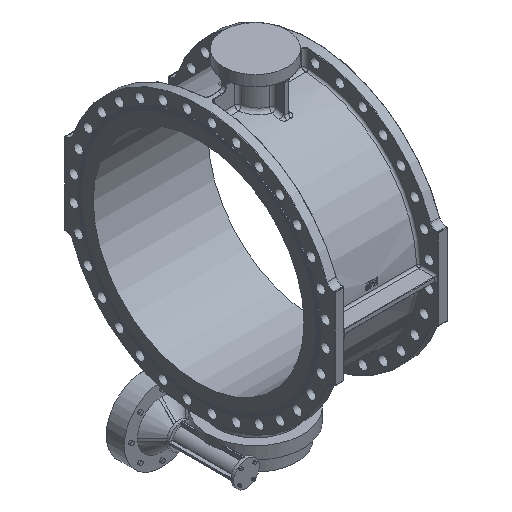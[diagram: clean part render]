
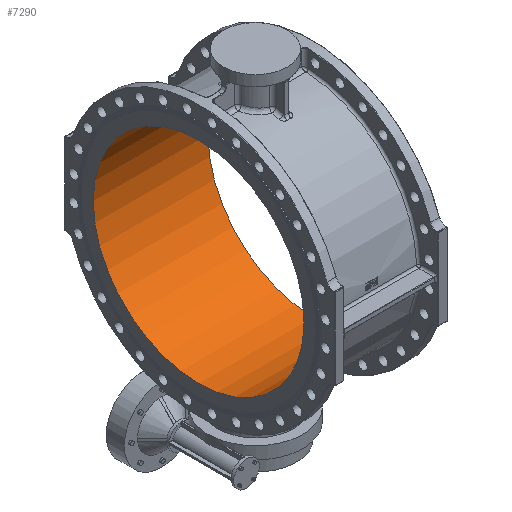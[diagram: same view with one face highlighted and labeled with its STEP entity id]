
A CAD part, isometric view. The second image highlights one B-rep face of the part: STEP entity #7290.
In plain terms, the highlighted cylindrical face has radius 579 mm (diameter 1158 mm), a full revolution.
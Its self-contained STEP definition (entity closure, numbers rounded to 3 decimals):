
#7290 = ADVANCED_FACE ( 'NONE', ( #30039, #30044 ), #30045, .F. ) ;
#8574 = ORIENTED_EDGE ( 'NONE', *, *, #9490, .T. ) ;
#8575 = ORIENTED_EDGE ( 'NONE', *, *, #9419, .T. ) ;
#9419 = EDGE_CURVE ( 'NONE', #14211, #14211, #25011, .T. ) ;
#9490 = EDGE_CURVE ( 'NONE', #14304, #14304, #42913, .T. ) ;
#13073 = EDGE_LOOP ( 'NONE', ( #8575 ) ) ;
#13076 = EDGE_LOOP ( 'NONE', ( #8574 ) ) ;
#14211 = VERTEX_POINT ( 'NONE', #20516 ) ;
#14304 = VERTEX_POINT ( 'NONE', #20601 ) ;
#20516 = CARTESIAN_POINT ( 'NONE',  ( 214.375, -2.547, 633.829 ) ) ;
#20601 = CARTESIAN_POINT ( 'NONE',  ( -415.625, -2.547, 633.829 ) ) ;
#24760 = AXIS2_PLACEMENT_3D ( 'NONE', #31287, #31288, #31286 ) ;
#25011 = CIRCLE ( 'NONE', #39088, 579. ) ;
#30039 = FACE_OUTER_BOUND ( 'NONE', #13076, .T. ) ;
#30044 = FACE_OUTER_BOUND ( 'NONE', #13073, .T. ) ;
#30045 = CYLINDRICAL_SURFACE ( 'NONE', #24760, 579. ) ;
#31286 = DIRECTION ( 'NONE',  ( 0., 0., -1. ) ) ;
#31287 = CARTESIAN_POINT ( 'NONE',  ( -100.625, -2.547, 54.829 ) ) ;
#31288 = DIRECTION ( 'NONE',  ( 1., 0., 0. ) ) ;
#39088 = AXIS2_PLACEMENT_3D ( 'NONE', #42469, #42470, #42471 ) ;
#39133 = AXIS2_PLACEMENT_3D ( 'NONE', #42606, #42607, #42608 ) ;
#42469 = CARTESIAN_POINT ( 'NONE',  ( 214.375, -2.547, 54.829 ) ) ;
#42470 = DIRECTION ( 'NONE',  ( 1., 0., 0. ) ) ;
#42471 = DIRECTION ( 'NONE',  ( 0., 0., 1. ) ) ;
#42606 = CARTESIAN_POINT ( 'NONE',  ( -415.625, -2.547, 54.829 ) ) ;
#42607 = DIRECTION ( 'NONE',  ( -1., 0., 0. ) ) ;
#42608 = DIRECTION ( 'NONE',  ( 0., 0., 1. ) ) ;
#42913 = CIRCLE ( 'NONE', #39133, 579. ) ;
